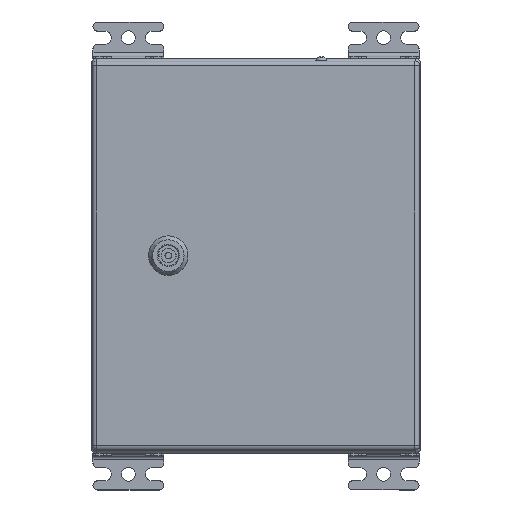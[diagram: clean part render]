
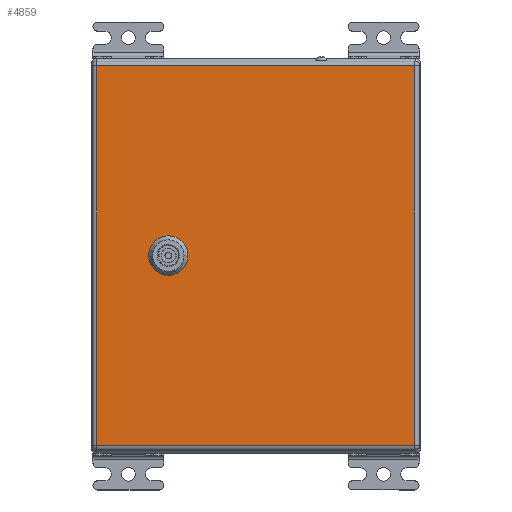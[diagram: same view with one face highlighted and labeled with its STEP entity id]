
A CAD part, top view. The second image highlights one B-rep face of the part: STEP entity #4859.
In plain terms, the highlighted planar face has unit normal (0, 0, 1).
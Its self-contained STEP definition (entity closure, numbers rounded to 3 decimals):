
#4859=ADVANCED_FACE('',(#12430,#12432),#12434,.T.);
#12430=FACE_BOUND('',#12431,.T.);
#12431=EDGE_LOOP('',(#34402,#34403,#34404,#34405));
#12432=FACE_BOUND('',#12433,.T.);
#12433=EDGE_LOOP('',(#34406,#34407,#34408,#34409,#34410,#34411,#34412,#34413));
#12434=PLANE('',#12435);
#12435=AXIS2_PLACEMENT_3D('',#12436,#12437,#12438);
#12436=CARTESIAN_POINT('',(0.,0.,1.5));
#12437=DIRECTION('',(0.,0.,1.));
#12438=DIRECTION('',(1.,0.,0.));
#34402=ORIENTED_EDGE('',*,*,#38472,.T.);
#34403=ORIENTED_EDGE('',*,*,#38473,.T.);
#34404=ORIENTED_EDGE('',*,*,#38474,.T.);
#34405=ORIENTED_EDGE('',*,*,#38475,.T.);
#34406=ORIENTED_EDGE('',*,*,#38434,.T.);
#34407=ORIENTED_EDGE('',*,*,#38449,.T.);
#34408=ORIENTED_EDGE('',*,*,#38447,.T.);
#34409=ORIENTED_EDGE('',*,*,#38445,.T.);
#34410=ORIENTED_EDGE('',*,*,#38443,.T.);
#34411=ORIENTED_EDGE('',*,*,#38441,.T.);
#34412=ORIENTED_EDGE('',*,*,#38439,.T.);
#34413=ORIENTED_EDGE('',*,*,#38437,.T.);
#38434=EDGE_CURVE('',#41764,#41765,#41766,.F.);
#38437=EDGE_CURVE('',#41769,#41764,#41770,.F.);
#38439=EDGE_CURVE('',#41772,#41769,#41773,.F.);
#38441=EDGE_CURVE('',#41775,#41772,#41776,.F.);
#38443=EDGE_CURVE('',#41778,#41775,#41779,.F.);
#38445=EDGE_CURVE('',#41781,#41778,#41782,.F.);
#38447=EDGE_CURVE('',#41784,#41781,#41785,.F.);
#38449=EDGE_CURVE('',#41765,#41784,#41787,.F.);
#38472=EDGE_CURVE('',#41824,#41825,#41826,.T.);
#38473=EDGE_CURVE('',#41825,#41827,#41828,.T.);
#38474=EDGE_CURVE('',#41827,#41829,#41830,.T.);
#38475=EDGE_CURVE('',#41829,#41824,#41831,.T.);
#41764=VERTEX_POINT('',#50782);
#41765=VERTEX_POINT('',#50783);
#41766=LINE('',#50784,#50785);
#41769=VERTEX_POINT('',#50793);
#41770=CIRCLE('',#50794,11.25);
#41772=VERTEX_POINT('',#50801);
#41773=LINE('',#50802,#50803);
#41775=VERTEX_POINT('',#50808);
#41776=CIRCLE('',#50809,11.25);
#41778=VERTEX_POINT('',#50816);
#41779=LINE('',#50817,#50818);
#41781=VERTEX_POINT('',#50823);
#41782=CIRCLE('',#50824,11.25);
#41784=VERTEX_POINT('',#50831);
#41785=LINE('',#50832,#50833);
#41787=CIRCLE('',#50838,11.25);
#41824=VERTEX_POINT('',#50928);
#41825=VERTEX_POINT('',#50929);
#41826=LINE('',#50930,#50931);
#41827=VERTEX_POINT('',#50933);
#41828=LINE('',#50934,#50935);
#41829=VERTEX_POINT('',#50937);
#41830=LINE('',#50938,#50939);
#41831=LINE('',#50941,#50942);
#50782=CARTESIAN_POINT('',(-139.545,-64.6,1.5));
#50783=CARTESIAN_POINT('',(-149.455,-64.6,1.5));
#50784=CARTESIAN_POINT('',(-149.455,-64.6,1.5));
#50785=VECTOR('',#50786,1.);
#50786=DIRECTION('',(1.,0.,0.));
#50793=CARTESIAN_POINT('',(-134.4,-59.455,1.5));
#50794=AXIS2_PLACEMENT_3D('',#50795,#50796,#50797);
#50795=CARTESIAN_POINT('',(-144.5,-54.5,1.5));
#50796=DIRECTION('',(0.,0.,1.));
#50797=DIRECTION('',(0.44,-0.898,0.));
#50801=CARTESIAN_POINT('',(-134.4,-49.545,1.5));
#50802=CARTESIAN_POINT('',(-134.4,-59.455,1.5));
#50803=VECTOR('',#50804,1.);
#50804=DIRECTION('',(0.,1.,0.));
#50808=CARTESIAN_POINT('',(-139.545,-44.4,1.5));
#50809=AXIS2_PLACEMENT_3D('',#50810,#50811,#50812);
#50810=CARTESIAN_POINT('',(-144.5,-54.5,1.5));
#50811=DIRECTION('',(0.,0.,1.));
#50812=DIRECTION('',(0.898,0.44,0.));
#50816=CARTESIAN_POINT('',(-149.455,-44.4,1.5));
#50817=CARTESIAN_POINT('',(-139.545,-44.4,1.5));
#50818=VECTOR('',#50819,1.);
#50819=DIRECTION('',(-1.,0.,0.));
#50823=CARTESIAN_POINT('',(-154.6,-49.545,1.5));
#50824=AXIS2_PLACEMENT_3D('',#50825,#50826,#50827);
#50825=CARTESIAN_POINT('',(-144.5,-54.5,1.5));
#50826=DIRECTION('',(0.,0.,1.));
#50827=DIRECTION('',(-0.44,0.898,0.));
#50831=CARTESIAN_POINT('',(-154.6,-59.455,1.5));
#50832=CARTESIAN_POINT('',(-154.6,-49.545,1.5));
#50833=VECTOR('',#50834,1.);
#50834=DIRECTION('',(0.,-1.,0.));
#50838=AXIS2_PLACEMENT_3D('',#50839,#50840,#50841);
#50839=CARTESIAN_POINT('',(-144.5,-54.5,1.5));
#50840=DIRECTION('',(0.,0.,1.));
#50841=DIRECTION('',(-0.898,-0.44,0.));
#50928=CARTESIAN_POINT('',(-289.,0.,1.5));
#50929=CARTESIAN_POINT('',(-289.,-242.,1.5));
#50930=CARTESIAN_POINT('',(-289.,0.,1.5));
#50931=VECTOR('',#50932,1.);
#50932=DIRECTION('',(0.,-1.,0.));
#50933=CARTESIAN_POINT('',(0.,-242.,1.5));
#50934=CARTESIAN_POINT('',(-289.,-242.,1.5));
#50935=VECTOR('',#50936,1.);
#50936=DIRECTION('',(1.,0.,0.));
#50937=CARTESIAN_POINT('',(0.,0.,1.5));
#50938=CARTESIAN_POINT('',(0.,-242.,1.5));
#50939=VECTOR('',#50940,1.);
#50940=DIRECTION('',(0.,1.,0.));
#50941=CARTESIAN_POINT('',(0.,0.,1.5));
#50942=VECTOR('',#50943,1.);
#50943=DIRECTION('',(-1.,0.,0.));
